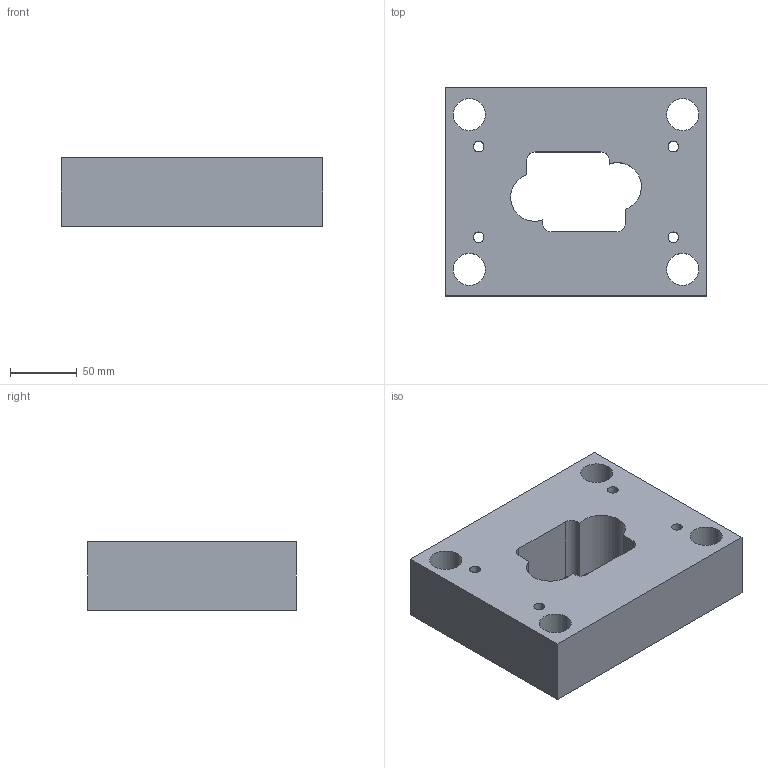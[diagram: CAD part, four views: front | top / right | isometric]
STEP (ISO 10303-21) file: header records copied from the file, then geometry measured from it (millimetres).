
FILE_DESCRIPTION (( 'STEP AP214' ), '1' );
FILE_NAME ('plaque porte empreinte FAO.STEP', '2019-01-16T14:36:31', ( '' ), ( '' ), 'SwSTEP 2.0', 'SolidWorks 2016', '' );
FILE_SCHEMA (( 'AUTOMOTIVE_DESIGN' ));
Length unit declared in the file: millimetre
Products named in the file (1): plaque porte empreinte FAO
Bounding box: 196 x 156 x 51 mm (x, y, z)
Volume: 1194041.9 mm3; surface area: 124088.7 mm2
Topology: 1 solids, 1 shells, 71 faces, 183 edges, 112 vertices
Faces by surface type: cylinder 43, plane 16, cone 12
Entity records: 2261 total; most frequent: DIRECTION 401, CARTESIAN_POINT 355, ORIENTED_EDGE 342, EDGE_CURVE 171, AXIS2_PLACEMENT_3D 158, VERTEX_POINT 112, EDGE_LOOP 99, CIRCLE 86
